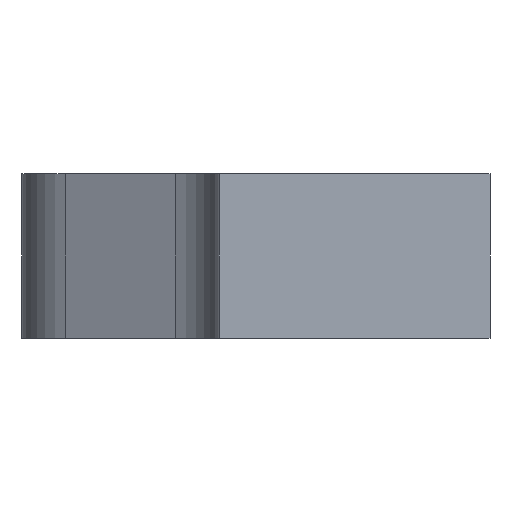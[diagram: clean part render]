
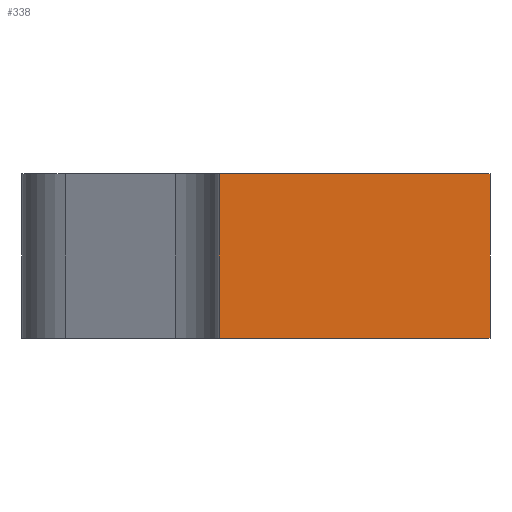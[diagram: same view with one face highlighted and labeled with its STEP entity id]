
A CAD part, front view. The second image highlights one B-rep face of the part: STEP entity #338.
In plain terms, the highlighted planar face has unit normal (0, -1, 0).
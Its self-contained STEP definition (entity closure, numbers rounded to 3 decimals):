
#86=CARTESIAN_POINT('',(24.0,0.0,0.0));
#87=VERTEX_POINT('',#86);
#94=CARTESIAN_POINT('',(57.0,0.0,0.0));
#95=VERTEX_POINT('',#94);
#96=CARTESIAN_POINT('',(24.0,0.0,0.0));
#97=DIRECTION('',(1.0,0.0,0.0));
#98=VECTOR('',#97,1.0);
#99=LINE('',#96,#98);
#100=EDGE_CURVE('',#87,#95,#99,.T.);
#308=CARTESIAN_POINT('',(57.0,0.0,-20.0));
#309=VERTEX_POINT('',#308);
#310=CARTESIAN_POINT('',(57.0,0.0,0.0));
#311=DIRECTION('',(0.0,0.0,-1.0));
#312=VECTOR('',#311,1.0);
#313=LINE('',#310,#312);
#314=EDGE_CURVE('',#95,#309,#313,.T.);
#315=ORIENTED_EDGE('',*,*,#314,.F.);
#316=ORIENTED_EDGE('',*,*,#100,.F.);
#317=CARTESIAN_POINT('',(24.0,0.0,-20.0));
#318=VERTEX_POINT('',#317);
#319=CARTESIAN_POINT('',(24.0,0.0,0.0));
#320=DIRECTION('',(0.0,0.0,-1.0));
#321=VECTOR('',#320,1.0);
#322=LINE('',#319,#321);
#323=EDGE_CURVE('',#87,#318,#322,.T.);
#324=ORIENTED_EDGE('',*,*,#323,.T.);
#325=CARTESIAN_POINT('',(24.0,0.0,-20.0));
#326=DIRECTION('',(1.0,0.0,0.0));
#327=VECTOR('',#326,1.0);
#328=LINE('',#325,#327);
#329=EDGE_CURVE('',#318,#309,#328,.T.);
#330=ORIENTED_EDGE('',*,*,#329,.T.);
#331=EDGE_LOOP('',(#315,#316,#324,#330));
#332=FACE_OUTER_BOUND('',#331,.T.);
#333=CARTESIAN_POINT('',(0.0,0.0,-20.0));
#334=DIRECTION('',(0.0,-1.0,0.0));
#335=DIRECTION('',(0.0,0.0,-1.0));
#336=AXIS2_PLACEMENT_3D('',#333,#334,#335);
#337=PLANE('',#336);
#338=ADVANCED_FACE('',(#332),#337,.T.);
